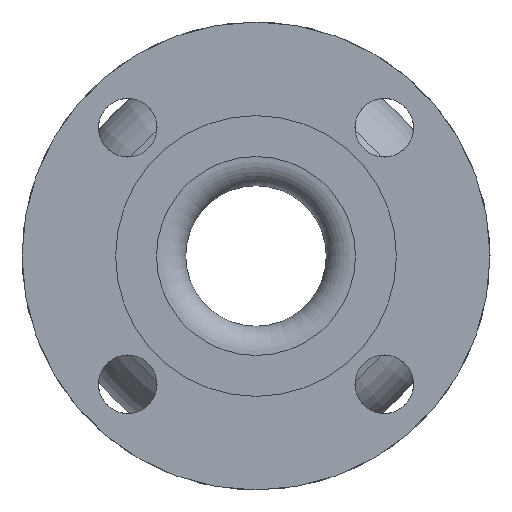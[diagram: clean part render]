
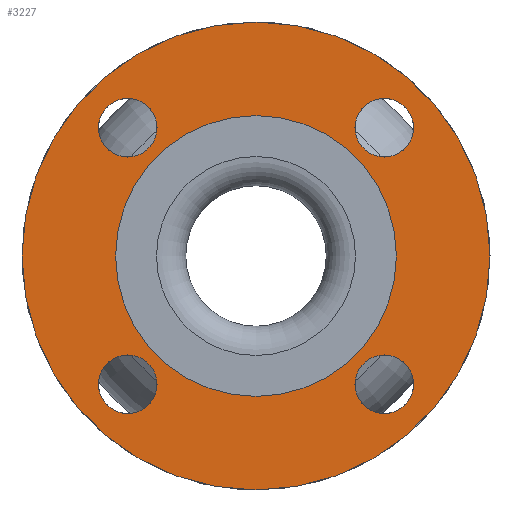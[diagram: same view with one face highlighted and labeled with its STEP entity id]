
A CAD part, left-side view. The second image highlights one B-rep face of the part: STEP entity #3227.
In plain terms, the highlighted planar face has unit normal (-1, 0, 0).
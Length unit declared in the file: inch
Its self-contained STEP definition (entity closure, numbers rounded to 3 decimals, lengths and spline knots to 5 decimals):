
#384=PLANE('',#3441);
#446=FACE_BOUND('',#751,.T.);
#447=FACE_BOUND('',#752,.T.);
#448=FACE_BOUND('',#753,.T.);
#449=FACE_BOUND('',#754,.T.);
#450=FACE_BOUND('',#755,.T.);
#550=FACE_OUTER_BOUND('',#750,.T.);
#750=EDGE_LOOP('',(#2058));
#751=EDGE_LOOP('',(#2059));
#752=EDGE_LOOP('',(#2060));
#753=EDGE_LOOP('',(#2061));
#754=EDGE_LOOP('',(#2062));
#755=EDGE_LOOP('',(#2063));
#1031=CIRCLE('',#3419,0.3125);
#1033=CIRCLE('',#3422,0.3125);
#1035=CIRCLE('',#3425,0.3125);
#1037=CIRCLE('',#3428,0.3125);
#1046=CIRCLE('',#3442,2.5);
#1047=CIRCLE('',#3443,1.5);
#1291=VERTEX_POINT('',#4939);
#1293=VERTEX_POINT('',#4944);
#1295=VERTEX_POINT('',#4949);
#1297=VERTEX_POINT('',#4954);
#1306=VERTEX_POINT('',#4977);
#1307=VERTEX_POINT('',#4979);
#1607=EDGE_CURVE('',#1291,#1291,#1031,.T.);
#1609=EDGE_CURVE('',#1293,#1293,#1033,.T.);
#1611=EDGE_CURVE('',#1295,#1295,#1035,.T.);
#1613=EDGE_CURVE('',#1297,#1297,#1037,.T.);
#1622=EDGE_CURVE('',#1306,#1306,#1046,.T.);
#1623=EDGE_CURVE('',#1307,#1307,#1047,.T.);
#2058=ORIENTED_EDGE('',*,*,#1622,.F.);
#2059=ORIENTED_EDGE('',*,*,#1607,.T.);
#2060=ORIENTED_EDGE('',*,*,#1609,.T.);
#2061=ORIENTED_EDGE('',*,*,#1611,.T.);
#2062=ORIENTED_EDGE('',*,*,#1613,.T.);
#2063=ORIENTED_EDGE('',*,*,#1623,.T.);
#3227=ADVANCED_FACE('',(#550,#446,#447,#448,#449,#450),#384,.T.);
#3419=AXIS2_PLACEMENT_3D('',#4940,#3875,#3876);
#3422=AXIS2_PLACEMENT_3D('',#4945,#3881,#3882);
#3425=AXIS2_PLACEMENT_3D('',#4950,#3887,#3888);
#3428=AXIS2_PLACEMENT_3D('',#4955,#3893,#3894);
#3441=AXIS2_PLACEMENT_3D('',#4976,#3919,#3920);
#3442=AXIS2_PLACEMENT_3D('',#4978,#3921,#3922);
#3443=AXIS2_PLACEMENT_3D('',#4980,#3923,#3924);
#3875=DIRECTION('center_axis',(1.,0.,0.));
#3876=DIRECTION('ref_axis',(0.,-1.,0.));
#3881=DIRECTION('center_axis',(1.,0.,0.));
#3882=DIRECTION('ref_axis',(0.,0.,1.));
#3887=DIRECTION('center_axis',(1.,0.,0.));
#3888=DIRECTION('ref_axis',(0.,1.,0.));
#3893=DIRECTION('center_axis',(1.,0.,0.));
#3894=DIRECTION('ref_axis',(0.,0.,-1.));
#3919=DIRECTION('center_axis',(-1.,0.,0.));
#3920=DIRECTION('ref_axis',(0.,0.,1.));
#3921=DIRECTION('center_axis',(1.,0.,0.));
#3922=DIRECTION('ref_axis',(0.,0.,-1.));
#3923=DIRECTION('center_axis',(1.,0.,0.));
#3924=DIRECTION('ref_axis',(0.,0.,-1.));
#4939=CARTESIAN_POINT('',(-5.,-1.05752,-1.37002));
#4940=CARTESIAN_POINT('Origin',(-5.,-1.37002,-1.37002));
#4944=CARTESIAN_POINT('',(-5.,-1.37002,1.05752));
#4945=CARTESIAN_POINT('Origin',(-5.,-1.37002,1.37002));
#4949=CARTESIAN_POINT('',(-5.,1.05752,1.37002));
#4950=CARTESIAN_POINT('Origin',(-5.,1.37002,1.37002));
#4954=CARTESIAN_POINT('',(-5.,1.37002,-1.05752));
#4955=CARTESIAN_POINT('Origin',(-5.,1.37002,-1.37002));
#4976=CARTESIAN_POINT('Origin',(-5.,2.5,0.));
#4977=CARTESIAN_POINT('',(-5.,2.5,0.));
#4978=CARTESIAN_POINT('Origin',(-5.,0.,0.));
#4979=CARTESIAN_POINT('',(-5.,1.5,0.));
#4980=CARTESIAN_POINT('Origin',(-5.,0.,0.));
